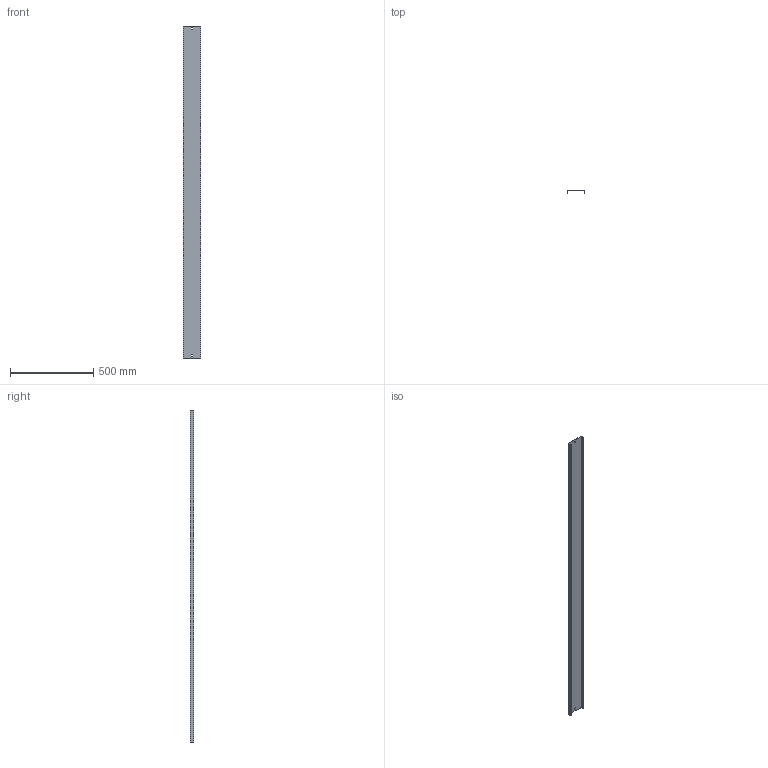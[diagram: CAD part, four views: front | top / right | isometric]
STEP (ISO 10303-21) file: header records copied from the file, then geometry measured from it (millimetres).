
FILE_DESCRIPTION (( 'STEP AP214' ), '1' );
FILE_NAME ('05G2R100.step', '2025-02-21T13:07:12', ( '' ), ( '' ), 'SwSTEP 2.0', 'SolidWorks 2023', '' );
FILE_SCHEMA (( 'AUTOMOTIVE_DESIGN' ));
Length unit declared in the file: millimetre
Products named in the file (1): 05G2R100
Bounding box: 107 x 20 x 2000 mm (x, y, z)
Volume: 431824.5 mm3; surface area: 582291 mm2
Topology: 1 solids, 1 shells, 18 faces, 48 edges, 32 vertices
Faces by surface type: plane 18
Entity records: 583 total; most frequent: CARTESIAN_POINT 99, ORIENTED_EDGE 96, DIRECTION 86, VECTOR 48, EDGE_CURVE 48, LINE 48, VERTEX_POINT 32, EDGE_LOOP 22
